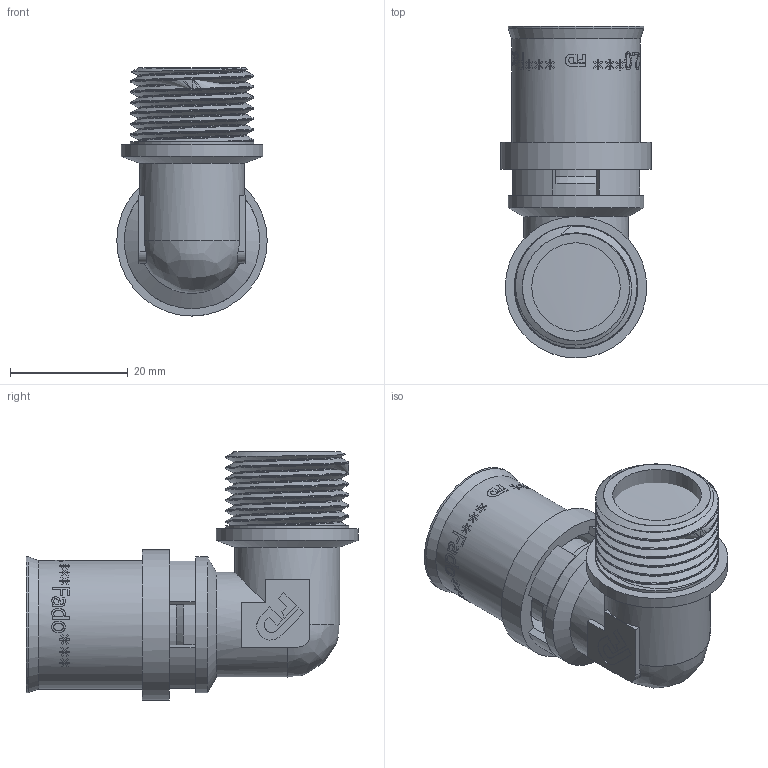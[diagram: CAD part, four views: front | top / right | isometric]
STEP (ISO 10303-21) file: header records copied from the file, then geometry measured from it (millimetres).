
FILE_DESCRIPTION(/* description */ (''),/* implementation_level */ '2;1');
FILE_NAME(/* name */ 'C:\Users\Doom\Desktop\Фадотех\Пресс\HDU23 ASS 20x12M Elbow 28.02.2\HDU23 ASS 20x12M Elbow 28.02.2.stp',/* time_stamp */ '2022-08-13T15:46:57+03:00',/* author */ ('Doom'),/* organization */ (''),/* preprocessor_version */ 'ST-DEVELOPER v18',/* originating_system */ 'Autodesk Inventor 2020',/* authorisation */ '');
FILE_SCHEMA (('AUTOMOTIVE_DESIGN { 1 0 10303 214 3 1 1 }'));
Length unit declared in the file: millimetre
Products named in the file (4): HDU23 ASS 20x12M Elbow 28.02.2; HDU23-1 31.03.2020; 16 Model 18.12.2019; 16 Model 18.12.2019_1
Assembly tree (3 placements, depth 2):
  HDU23 ASS 20x12M Elbow 28.02.2
    HDU23-1 31.03.2020
    16 Model 18.12.2019
    16 Model 18.12.2019_1
Bounding box: 25.5 x 56.28 x 42.05 mm (x, y, z)
Volume: 10453.5 mm3; surface area: 15279.7 mm2
Topology: 4 solids, 4 shells, 586 faces, 1652 edges, 1117 vertices
Faces by surface type: bspline 324, plane 155, cylinder 81, cone 21, torus 5
Full cylindrical faces by diameter (mm): 11.5 x1, 13.292 x1, 13.392 x1, 15 x1, 15.592 x3, 15.692 x5, 16.4 x1, 16.492 x1, 17.292 x1, 17.6 x1, 17.8 x2, 18.21 x2, 20.4 x2, 20.9 x7, 21.8 x1, 22 x1, 23 x3, 23.5 x1, 24 x1, 25.5 x1
Entity records: 28667 total; most frequent: CARTESIAN_POINT 15287, ORIENTED_EDGE 3304, DIRECTION 1800, EDGE_CURVE 1652, VERTEX_POINT 1117, B_SPLINE_CURVE_WITH_KNOTS 685, LINE 672, VECTOR 672
